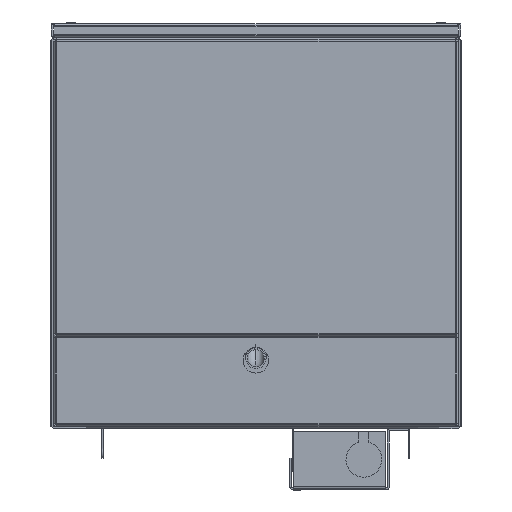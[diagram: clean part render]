
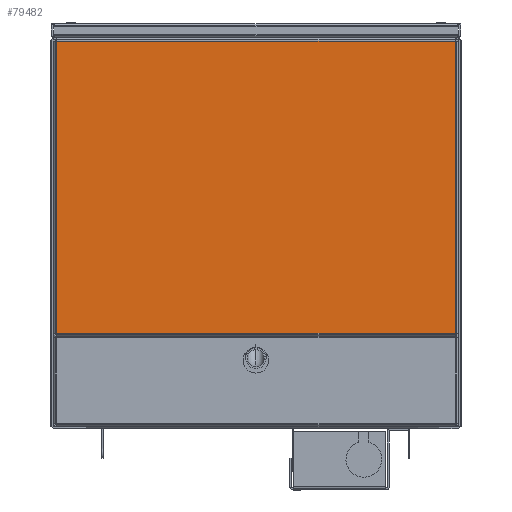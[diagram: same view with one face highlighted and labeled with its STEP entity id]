
A CAD part, front view. The second image highlights one B-rep face of the part: STEP entity #79482.
In plain terms, the highlighted planar face has unit normal (0, -1, 0).
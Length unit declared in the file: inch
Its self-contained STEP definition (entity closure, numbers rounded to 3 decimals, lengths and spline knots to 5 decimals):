
#429 = FACE_OUTER_BOUND ( 'NONE', #10691, .T. ) ;
#1060 = VECTOR ( 'NONE', #72262, 39.37008 ) ;
#1788 = LINE ( 'NONE', #92447, #19917 ) ;
#2613 = VERTEX_POINT ( 'NONE', #74390 ) ;
#3026 = CARTESIAN_POINT ( 'NONE',  ( 4.87, -0.048, -3.57 ) ) ;
#4920 = ORIENTED_EDGE ( 'NONE', *, *, #42579, .F. ) ;
#5504 = EDGE_CURVE ( 'NONE', #17462, #49679, #21187, .T. ) ;
#6197 = ORIENTED_EDGE ( 'NONE', *, *, #38827, .T. ) ;
#6293 = VERTEX_POINT ( 'NONE', #77039 ) ;
#7212 = ORIENTED_EDGE ( 'NONE', *, *, #56606, .F. ) ;
#8550 = CARTESIAN_POINT ( 'NONE',  ( -4.87, -0.048, 3.57 ) ) ;
#8611 = ORIENTED_EDGE ( 'NONE', *, *, #19317, .F. ) ;
#8862 = LINE ( 'NONE', #8550, #72633 ) ;
#10691 = EDGE_LOOP ( 'NONE', ( #38677, #7212, #96986, #73718, #4920, #36877, #6197, #26109, #55662, #16024, #69779, #8611 ) ) ;
#11204 = EDGE_CURVE ( 'NONE', #2613, #24836, #8862, .T. ) ;
#13780 = CARTESIAN_POINT ( 'NONE',  ( -4.87, -0.048, -3.57 ) ) ;
#15730 = DIRECTION ( 'NONE',  ( 0., 0., -1. ) ) ;
#16024 = ORIENTED_EDGE ( 'NONE', *, *, #97565, .T. ) ;
#16297 = DIRECTION ( 'NONE',  ( 1., 0., 0. ) ) ;
#17462 = VERTEX_POINT ( 'NONE', #80854 ) ;
#18730 = VECTOR ( 'NONE', #91011, 39.37008 ) ;
#18840 = CARTESIAN_POINT ( 'NONE',  ( -4.87, -0.048, 3.572 ) ) ;
#19292 = VECTOR ( 'NONE', #90847, 39.37008 ) ;
#19317 = EDGE_CURVE ( 'NONE', #91814, #6293, #63002, .T. ) ;
#19917 = VECTOR ( 'NONE', #54153, 39.37008 ) ;
#20947 = EDGE_CURVE ( 'NONE', #48898, #80484, #42429, .T. ) ;
#21108 = CARTESIAN_POINT ( 'NONE',  ( 4.87, -0.048, -3.57 ) ) ;
#21148 = LINE ( 'NONE', #75556, #18730 ) ;
#21187 = LINE ( 'NONE', #77514, #98189 ) ;
#21494 = DIRECTION ( 'NONE',  ( 0., 0., 1. ) ) ;
#21698 = CARTESIAN_POINT ( 'NONE',  ( 4.872, -0.048, -3.57 ) ) ;
#22410 = EDGE_CURVE ( 'NONE', #24836, #43553, #56747, .T. ) ;
#23073 = VERTEX_POINT ( 'NONE', #36157 ) ;
#23388 = DIRECTION ( 'NONE',  ( 1., 0., 0. ) ) ;
#24836 = VERTEX_POINT ( 'NONE', #44006 ) ;
#26109 = ORIENTED_EDGE ( 'NONE', *, *, #22410, .F. ) ;
#28515 = CARTESIAN_POINT ( 'NONE',  ( -4.872, -0.048, -3.57 ) ) ;
#31964 = VERTEX_POINT ( 'NONE', #28515 ) ;
#36157 = CARTESIAN_POINT ( 'NONE',  ( 4.87, -0.048, -3.572 ) ) ;
#36683 = PLANE ( 'NONE',  #49593 ) ;
#36808 = EDGE_CURVE ( 'NONE', #48898, #53895, #98700, .T. ) ;
#36877 = ORIENTED_EDGE ( 'NONE', *, *, #5504, .F. ) ;
#37079 = CARTESIAN_POINT ( 'NONE',  ( 4.872, -0.048, -3.57 ) ) ;
#38677 = ORIENTED_EDGE ( 'NONE', *, *, #88783, .T. ) ;
#38827 = EDGE_CURVE ( 'NONE', #17462, #43553, #42123, .T. ) ;
#40275 = DIRECTION ( 'NONE',  ( 0., 0., -1. ) ) ;
#41725 = CARTESIAN_POINT ( 'NONE',  ( 4.87, -0.048, 3.572 ) ) ;
#42123 = LINE ( 'NONE', #41725, #1060 ) ;
#42429 = LINE ( 'NONE', #21108, #49650 ) ;
#42579 = EDGE_CURVE ( 'NONE', #49679, #53895, #21148, .T. ) ;
#42602 = VECTOR ( 'NONE', #88923, 39.37008 ) ;
#42873 = CARTESIAN_POINT ( 'NONE',  ( -4.87, -0.048, -3.57 ) ) ;
#43553 = VERTEX_POINT ( 'NONE', #18840 ) ;
#44006 = CARTESIAN_POINT ( 'NONE',  ( -4.87, -0.048, 3.57 ) ) ;
#44337 = CARTESIAN_POINT ( 'NONE',  ( -4.87, -0.048, -3.572 ) ) ;
#47669 = CARTESIAN_POINT ( 'NONE',  ( -4.872, -0.048, 3.57 ) ) ;
#48159 = VECTOR ( 'NONE', #15730, 39.37008 ) ;
#48349 = DIRECTION ( 'NONE',  ( 0., 0., 1. ) ) ;
#48898 = VERTEX_POINT ( 'NONE', #21698 ) ;
#49593 = AXIS2_PLACEMENT_3D ( 'NONE', #13780, #67554, #21494 ) ;
#49604 = VECTOR ( 'NONE', #23388, 39.37008 ) ;
#49650 = VECTOR ( 'NONE', #74950, 39.37008 ) ;
#49679 = VERTEX_POINT ( 'NONE', #94954 ) ;
#50553 = LINE ( 'NONE', #54095, #48159 ) ;
#53895 = VERTEX_POINT ( 'NONE', #73821 ) ;
#54095 = CARTESIAN_POINT ( 'NONE',  ( 4.87, -0.048, -3.65 ) ) ;
#54153 = DIRECTION ( 'NONE',  ( -1., 0., 0. ) ) ;
#55662 = ORIENTED_EDGE ( 'NONE', *, *, #11204, .F. ) ;
#56606 = EDGE_CURVE ( 'NONE', #80484, #23073, #50553, .T. ) ;
#56747 = LINE ( 'NONE', #94398, #84480 ) ;
#60058 = VECTOR ( 'NONE', #40275, 39.37008 ) ;
#60596 = EDGE_CURVE ( 'NONE', #6293, #31964, #1788, .T. ) ;
#63002 = LINE ( 'NONE', #42873, #42602 ) ;
#67554 = DIRECTION ( 'NONE',  ( 0., 1., 0. ) ) ;
#69441 = CARTESIAN_POINT ( 'NONE',  ( -4.87, -0.048, -3.572 ) ) ;
#69779 = ORIENTED_EDGE ( 'NONE', *, *, #60596, .F. ) ;
#70019 = LINE ( 'NONE', #69441, #49604 ) ;
#72262 = DIRECTION ( 'NONE',  ( -1., 0., 0. ) ) ;
#72633 = VECTOR ( 'NONE', #16297, 39.37008 ) ;
#73718 = ORIENTED_EDGE ( 'NONE', *, *, #36808, .T. ) ;
#73821 = CARTESIAN_POINT ( 'NONE',  ( 4.872, -0.048, 3.57 ) ) ;
#74390 = CARTESIAN_POINT ( 'NONE',  ( -4.872, -0.048, 3.57 ) ) ;
#74950 = DIRECTION ( 'NONE',  ( -1., 0., 0. ) ) ;
#75556 = CARTESIAN_POINT ( 'NONE',  ( 4.87, -0.048, 3.57 ) ) ;
#77039 = CARTESIAN_POINT ( 'NONE',  ( -4.87, -0.048, -3.57 ) ) ;
#77514 = CARTESIAN_POINT ( 'NONE',  ( 4.87, -0.048, 3.65 ) ) ;
#79482 = ADVANCED_FACE ( 'NONE', ( #429 ), #36683, .F. ) ;
#80484 = VERTEX_POINT ( 'NONE', #3026 ) ;
#80854 = CARTESIAN_POINT ( 'NONE',  ( 4.87, -0.048, 3.572 ) ) ;
#82967 = LINE ( 'NONE', #47669, #60058 ) ;
#84480 = VECTOR ( 'NONE', #48349, 39.37008 ) ;
#85597 = DIRECTION ( 'NONE',  ( 0., 0., -1. ) ) ;
#88783 = EDGE_CURVE ( 'NONE', #91814, #23073, #70019, .T. ) ;
#88923 = DIRECTION ( 'NONE',  ( 0., 0., 1. ) ) ;
#90847 = DIRECTION ( 'NONE',  ( 0., 0., 1. ) ) ;
#91011 = DIRECTION ( 'NONE',  ( 1., 0., 0. ) ) ;
#91814 = VERTEX_POINT ( 'NONE', #44337 ) ;
#92447 = CARTESIAN_POINT ( 'NONE',  ( -4.95, -0.048, -3.57 ) ) ;
#94398 = CARTESIAN_POINT ( 'NONE',  ( -4.87, -0.048, 3.65 ) ) ;
#94954 = CARTESIAN_POINT ( 'NONE',  ( 4.87, -0.048, 3.57 ) ) ;
#96986 = ORIENTED_EDGE ( 'NONE', *, *, #20947, .F. ) ;
#97565 = EDGE_CURVE ( 'NONE', #2613, #31964, #82967, .T. ) ;
#98189 = VECTOR ( 'NONE', #85597, 39.37008 ) ;
#98700 = LINE ( 'NONE', #37079, #19292 ) ;
